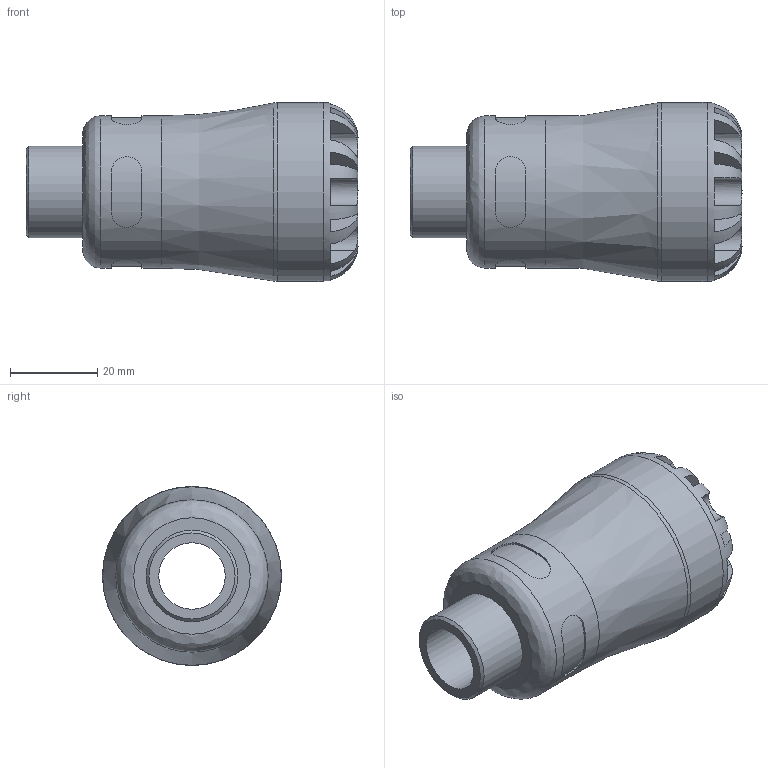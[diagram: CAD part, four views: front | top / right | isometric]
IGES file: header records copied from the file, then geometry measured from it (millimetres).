
Global section: file name: 107200020005_197200020005.ipt; native system: Autodesk Inventor 2015; preprocessor: unknown; author: KIM; date: 20170122.104917; units: millimetre
Bounding box: 76 x 41 x 41 mm (x, y, z)
Volume: 50419 mm3; surface area: 15070.5 mm2
Topology: 1 solids, 1 shells, 99 faces, 255 edges, 163 vertices
Faces by surface type: plane 60, revolution 23, cylinder 15, cone 1
Full cylindrical faces by diameter (mm): 20.955 x1, 34.85 x1, 41 x1
